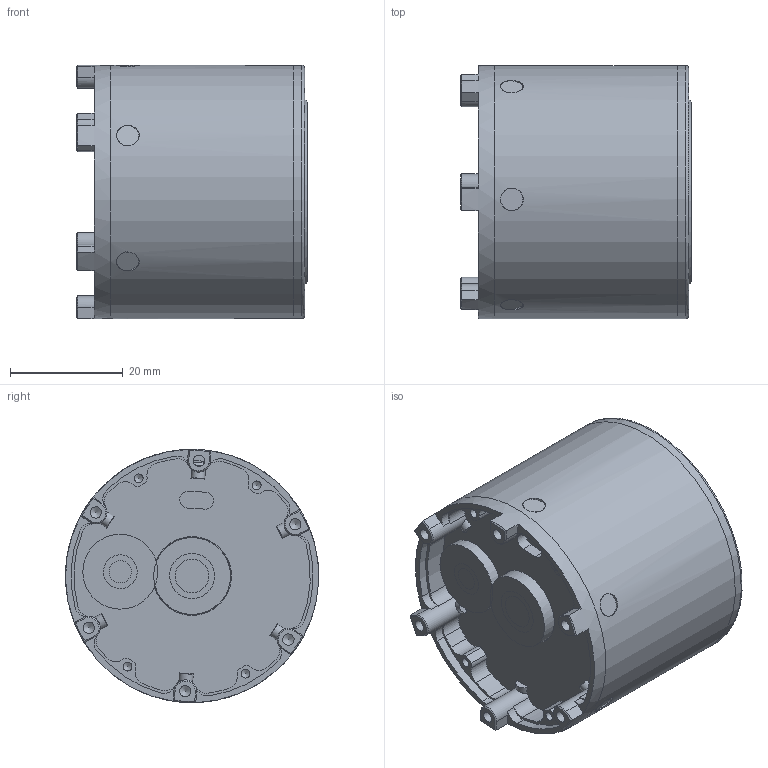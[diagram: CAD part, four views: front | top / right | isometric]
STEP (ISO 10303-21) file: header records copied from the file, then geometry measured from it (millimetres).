
FILE_DESCRIPTION(/* description */ (''),/* implementation_level */ '2;1');
FILE_NAME(/* name */ '',/* time_stamp */ '2025-09-12T11:33:45+08:00',/* author */ ('JIAO'),/* organization */ (''),/* preprocessor_version */ 'ST-DEVELOPER v19.2',/* originating_system */ 'Autodesk Inventor 2024',/* authorisation */ '');
FILE_SCHEMA (('AUTOMOTIVE_DESIGN { 1 0 10303 214 3 1 1 }','AP242_MANAGED_MODEL_BASED_3D_ENGINEERING_MIM_LF { 1 0 10303 442 3 1 4 }'));
Length unit declared in the file: millimetre
Products named in the file (1): 3505-36双编{V37-36}-250804_简化_
1
Bounding box: 41 x 44.95 x 45 mm (x, y, z)
Volume: 48177.7 mm3; surface area: 21350.6 mm2
Topology: 1 solids, 6 shells, 418 faces, 1084 edges, 675 vertices
Faces by surface type: plane 224, cylinder 157, cone 35, torus 2
Full cylindrical faces by diameter (mm): 1.567 x6, 2 x1, 2.013 x18, 3 x1, 4 x9, 4.5 x3, 5 x3, 5.4 x1, 6 x2, 10 x1, 13.6 x1, 13.65 x1, 13.8 x1, 14 x1, 27.9 x1, 30 x1, 33 x1, 33.071 x3, 33.5 x1, 34.385 x1, 34.6 x1, 35 x1, 35.8 x1, 37.8 x2, 39.5 x2, 41 x1, 45 x3
Entity records: 13740 total; most frequent: CARTESIAN_POINT 2524, DIRECTION 2446, ORIENTED_EDGE 2136, EDGE_CURVE 1068, AXIS2_PLACEMENT_3D 988, VERTEX_POINT 674, CIRCLE 557, EDGE_LOOP 488
